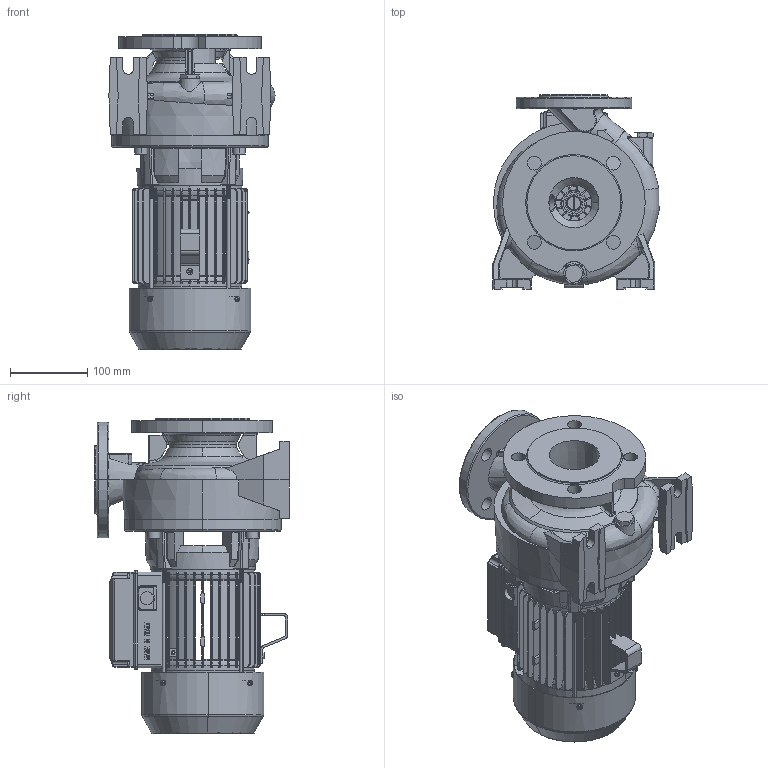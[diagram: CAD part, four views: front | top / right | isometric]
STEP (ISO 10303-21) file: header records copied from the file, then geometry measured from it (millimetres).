
FILE_DESCRIPTION (( 'STEP AP203' ), '1' );
FILE_NAME ('CN40-125B.STEP', '2020-03-05T16:56:52', ( '' ), ( '' ), 'SwSTEP 2.0', 'SolidWorks 2019', '' );
FILE_SCHEMA (( 'CONFIG_CONTROL_DESIGN' ));
Products named in the file (2): CN40-125B
Bounding box: 215.46 x 252 x 409.25 mm (x, y, z)
Surface area: 619866.9 mm2 (no closed solid volume)
Topology: 0 solids, 36 shells, 2036 faces, 6937 edges, 4778 vertices
Faces by surface type: plane 836, cylinder 648, torus 274, bspline 148, cone 108, sphere 22
Entity records: 117507 total; most frequent: CARTESIAN_POINT 62119, ORIENTED_EDGE 11657, DIRECTION 10352, EDGE_CURVE 6913, VERTEX_POINT 4774, AXIS2_PLACEMENT_3D 3473, VECTOR 3406, LINE 3406
